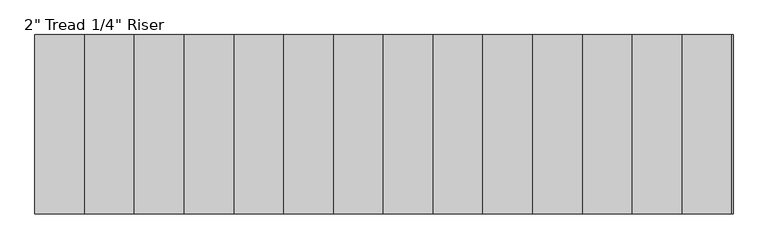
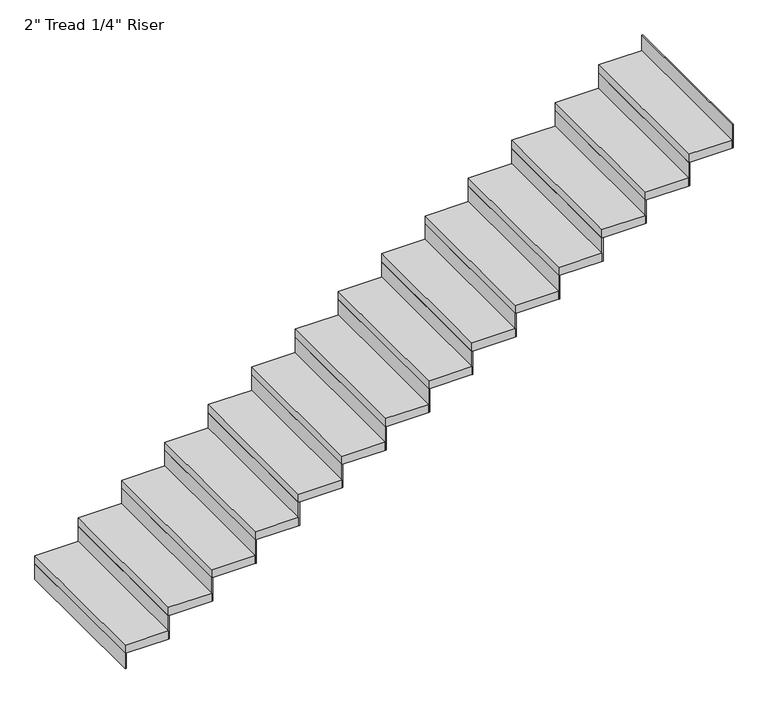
"""IFC4 building model written with IfcOpenShell, lengths in millimetres: stair flight geometry."""

import ifcopenshell
import ifcopenshell.guid

model = None  # the IFC model being written
_history = None  # IfcOwnerHistory: only IFC2X3 demands one
_inside = {}  # id of a spatial element -> (the spatial element, [elements in it])
_under = {}  # id of a project, library or spatial element -> (it, [spatial elements below it])
_declared = {}  # id of a project -> (the project, [libraries it declares])
_typed = {}  # id of a type object -> (the type object, [elements of that type])
_made_of = {}  # id of a material, layer set ... -> (it, [elements and type objects made of it])


def new_model(schema):
    """Start an empty IFC model of exactly this schema.

    Asked for "IFC4X3", IfcOpenShell would pick the latest addendum, in which some entities
    have other attributes; the version numbers below select the first issue.
    IFC2X3 requires an IfcOwnerHistory on every rooted entity: one is made here for all.
    """
    global model, _history
    if schema == "IFC4X3":
        model = ifcopenshell.file(schema_version=(4, 3, 0, 0))
    else:
        model = ifcopenshell.file(schema=schema)
    _inside.clear()
    _under.clear()
    _declared.clear()
    _typed.clear()
    _made_of.clear()
    _history = None
    if model.schema == "IFC2X3":
        org = make("IfcOrganization", Name="unknown")
        user = make(
            "IfcPersonAndOrganization",
            ThePerson=make("IfcPerson", FamilyName="unknown"),
            TheOrganization=org,
        )
        app = make(
            "IfcApplication",
            ApplicationDeveloper=org,
            Version="unknown",
            ApplicationFullName="unknown",
            ApplicationIdentifier="unknown",
        )
        _history = make(
            "IfcOwnerHistory",
            OwningUser=user,
            OwningApplication=app,
            ChangeAction="ADDED",
            CreationDate=0,
        )
    return model


def make(cls, **values):
    """One entity of the class cls with the attributes given. An attribute that is None is left unset."""
    return model.create_entity(
        cls, **{name: value for name, value in values.items() if value is not None}
    )


def rooted(cls, **values):
    """An entity with a GlobalId (a new one), such as an element, a storey or a relation."""
    return make(cls, GlobalId=ifcopenshell.guid.new(), OwnerHistory=_history, **values)


def si_unit(unit_type, name, prefix=None):
    """IfcSIUnit, for example si_unit("LENGTHUNIT", "METRE", prefix="MILLI")."""
    return make("IfcSIUnit", UnitType=unit_type, Prefix=prefix, Name=name)


def assignment(units):
    """IfcUnitAssignment: the units of a project."""
    return None if units is None else make("IfcUnitAssignment", Units=units)


def point(xyz):
    """IfcCartesianPoint."""
    return None if xyz is None else make("IfcCartesianPoint", Coordinates=xyz)


def direction(xyz):
    """IfcDirection."""
    return None if xyz is None else make("IfcDirection", DirectionRatios=xyz)


def frame(location, z_axis=None, x_axis=None):
    """IfcAxis2Placement3D, a coordinate frame: its origin and axes. An axis left out is left unset."""
    return make(
        "IfcAxis2Placement3D",
        Location=point(location),
        Axis=direction(z_axis),
        RefDirection=direction(x_axis),
    )


def origin():
    """The frame at (0, 0, 0) with its axes left unset."""
    return frame((0.0, 0.0, 0.0))


def origin_with_axes():
    """The frame at (0, 0, 0) with the z axis (0, 0, 1) and the x axis (1, 0, 0) written out."""
    return frame((0.0, 0.0, 0.0), z_axis=(0.0, 0.0, 1.0), x_axis=(1.0, 0.0, 0.0))


def place(relative_to, where):
    """IfcLocalPlacement: puts the frame where relative to a parent placement (None: the world)."""
    return make(
        "IfcLocalPlacement", PlacementRelTo=relative_to, RelativePlacement=where
    )


def context(
    kind, dimensions, precision=None, world=None, true_north=None, identifier=None
):
    """IfcGeometricRepresentationContext, for example the 3D "Model" context."""
    return make(
        "IfcGeometricRepresentationContext",
        ContextIdentifier=identifier,
        ContextType=kind,
        CoordinateSpaceDimension=dimensions,
        Precision=precision,
        WorldCoordinateSystem=world,
        TrueNorth=true_north,
    )


def project(units=None, contexts=None):
    """IfcProject with its units and contexts."""
    return rooted(
        "IfcProject",
        Name="project",
        RepresentationContexts=contexts,
        UnitsInContext=assignment(units),
    )


def spatial(cls, under=None, at=None, **own):
    """A site, building, storey or space (cls), placed at a placement, below another one or the project."""
    s = rooted(cls, ObjectPlacement=at, **own)
    if under is not None:
        _under.setdefault(under.id(), (under, []))[1].append(s)
    return s


def polyline(points):
    """IfcPolyline through the points."""
    return make("IfcPolyline", Points=[point(p) for p in points])


def outline(outer, holes=None, kind="AREA"):
    """IfcArbitraryClosedProfileDef: a profile drawn as a closed curve; with holes, ...WithVoids."""
    if holes is None:
        return make("IfcArbitraryClosedProfileDef", ProfileType=kind, OuterCurve=outer)
    return make(
        "IfcArbitraryProfileDefWithVoids",
        ProfileType=kind,
        OuterCurve=outer,
        InnerCurves=holes,
    )


def extrude(swept, where, along, depth):
    """IfcExtrudedAreaSolid: the profile swept, set in the frame where, extruded along a direction by depth."""
    return make(
        "IfcExtrudedAreaSolid",
        SweptArea=swept,
        Position=where,
        ExtrudedDirection=direction(along),
        Depth=depth,
    )


def shape(context_of_items, identifier, shape_type, items):
    """IfcShapeRepresentation: the items that make up one representation, for example the "Body"."""
    return make(
        "IfcShapeRepresentation",
        ContextOfItems=context_of_items,
        RepresentationIdentifier=identifier,
        RepresentationType=shape_type,
        Items=items,
    )


def source(mapping_origin, context_of_items, identifier, shape_type, items):
    """IfcRepresentationMap: a shape defined once, which mapped items show again and again."""
    return make(
        "IfcRepresentationMap",
        MappingOrigin=mapping_origin,
        MappedRepresentation=shape(context_of_items, identifier, shape_type, items),
    )


def transform(
    local_origin,
    x_axis=None,
    y_axis=None,
    z_axis=None,
    scale=None,
    scale2=None,
    scale3=None,
    uniform=True,
):
    """IfcCartesianTransformationOperator3D, or its non-uniform kind. x_axis, y_axis, z_axis: its Axis1, 2, 3."""
    if uniform:
        return make(
            "IfcCartesianTransformationOperator3D",
            Axis1=direction(x_axis),
            Axis2=direction(y_axis),
            LocalOrigin=point(local_origin),
            Scale=scale,
            Axis3=direction(z_axis),
        )
    return make(
        "IfcCartesianTransformationOperator3DnonUniform",
        Axis1=direction(x_axis),
        Axis2=direction(y_axis),
        LocalOrigin=point(local_origin),
        Scale=scale,
        Axis3=direction(z_axis),
        Scale2=scale2,
        Scale3=scale3,
    )


def mapped(mapping_source, mapping_target):
    """IfcMappedItem: shows the shape of a source again, moved by a transform."""
    return make(
        "IfcMappedItem", MappingSource=mapping_source, MappingTarget=mapping_target
    )


def made_of(thing, what):
    """Note that an element or type object is made of a material, layer set ...; save() writes the relation."""
    if what is not None:
        _made_of.setdefault(what.id(), (what, []))[1].append(thing)
    return thing


def element(
    cls,
    number,
    at=None,
    inside=None,
    cuts=None,
    type_object=None,
    material=None,
    context=None,
    identifier="Body",
    shape_type=None,
    held_by="IfcProductDefinitionShape",
    body=None,
    shapes=None,
    **own,
):
    """One element of the class cls, such as IfcWall. Its Tag is "e" and its number.

    at: its placement. inside: the storey or other place that contains it. cuts: it is an
    opening in that element (IfcRelVoidsElement). A single representation is given by context,
    identifier, shape_type and body (its items); several are given by shapes. held_by: the class
    of the entity that holds the representations. save() writes the other relations.
    """
    e = rooted(cls, Tag="e%d" % number, ObjectPlacement=at, **own)
    if body is not None:
        shapes = [shape(context, identifier, shape_type, body)]
    if shapes is not None:
        e.Representation = make(held_by, Representations=shapes)
    if inside is not None:
        _inside.setdefault(inside.id(), (inside, []))[1].append(e)
    if cuts is not None:
        rooted(
            "IfcRelVoidsElement", RelatingBuildingElement=cuts, RelatedOpeningElement=e
        )
    if type_object is not None:
        _typed.setdefault(type_object.id(), (type_object, []))[1].append(e)
    return made_of(e, material)


def aggregate(whole, parts):
    """IfcRelAggregates: a whole, such as a stair, and the parts it consists of."""
    return rooted("IfcRelAggregates", RelatingObject=whole, RelatedObjects=parts)


def save(model, path):
    """Write the relations noted so far, then the file.

    IfcRelAggregates (storeys below a building ...), IfcRelContainedInSpatialStructure (elements
    in a storey), IfcRelDefinesByType, IfcRelAssociatesMaterial and IfcRelDeclares: one each for
    every whole, place, type object, material and project.
    """
    for whole, parts in _under.values():
        aggregate(whole, parts)
    for where, things in _inside.values():
        rooted(
            "IfcRelContainedInSpatialStructure",
            RelatedElements=things,
            RelatingStructure=where,
        )
    for kind, things in _typed.values():
        rooted("IfcRelDefinesByType", RelatedObjects=things, RelatingType=kind)
    for what, things in _made_of.values():
        rooted("IfcRelAssociatesMaterial", RelatedObjects=things, RelatingMaterial=what)
    for by, libraries in _declared.values():
        rooted("IfcRelDeclares", RelatingContext=by, RelatedDefinitions=libraries)
    model.write(path)


def stair_flight_fc5f5a85(model_context):
    return source(origin(), model_context, "Body", "SweptSolid", [
        extrude(outline(polyline([(159432.6120703, -18948.6120358), (159426.2620703, -18948.6120358), (159426.2620703, -18034.2120358), (159432.6120703, -18034.2120358), (159432.6120703, -18948.6120358)])), origin_with_axes(), (0.0, 0.0, 1.0), 94.3428571),
        extrude(outline(polyline([(159680.2620703, -18034.2120358), (159680.2620703, -18948.6120358), (159426.2620703, -18948.6120358), (159426.2620703, -18034.2120358), (159680.2620703, -18034.2120358)])), frame((0.0, 0.0, 94.3428571), z_axis=(0.0, 0.0, 1.0), x_axis=(1.0, 0.0, 0.0)), (0.0, 0.0, 1.0), 50.8),
        extrude(outline(polyline([(159686.6120703, -18948.6120358), (159680.2620703, -18948.6120358), (159680.2620703, -18034.2120358), (159686.6120703, -18034.2120358), (159686.6120703, -18948.6120358)])), frame((0.0, 0.0, 94.3428571), z_axis=(0.0, 0.0, 1.0), x_axis=(1.0, 0.0, 0.0)), (0.0, 0.0, 1.0), 145.1428571),
        extrude(outline(polyline([(159934.2620703, -18034.2120358), (159934.2620703, -18948.6120358), (159680.2620703, -18948.6120358), (159680.2620703, -18034.2120358), (159934.2620703, -18034.2120358)])), frame((0.0, 0.0, 239.4857143), z_axis=(0.0, 0.0, 1.0), x_axis=(1.0, 0.0, 0.0)), (0.0, 0.0, 1.0), 50.8),
        extrude(outline(polyline([(159940.6120703, -18948.6120358), (159934.2620703, -18948.6120358), (159934.2620703, -18034.2120358), (159940.6120703, -18034.2120358), (159940.6120703, -18948.6120358)])), frame((0.0, 0.0, 239.4857143), z_axis=(0.0, 0.0, 1.0), x_axis=(1.0, 0.0, 0.0)), (0.0, 0.0, 1.0), 145.1428571),
        extrude(outline(polyline([(160188.2620703, -18034.2120358), (160188.2620703, -18948.6120358), (159934.2620703, -18948.6120358), (159934.2620703, -18034.2120358), (160188.2620703, -18034.2120358)])), frame((0.0, 0.0, 384.6285714), z_axis=(0.0, 0.0, 1.0), x_axis=(1.0, 0.0, 0.0)), (0.0, 0.0, 1.0), 50.8),
        extrude(outline(polyline([(160194.6120703, -18948.6120358), (160188.2620703, -18948.6120358), (160188.2620703, -18034.2120358), (160194.6120703, -18034.2120358), (160194.6120703, -18948.6120358)])), frame((0.0, 0.0, 384.6285714), z_axis=(0.0, 0.0, 1.0), x_axis=(1.0, 0.0, 0.0)), (0.0, 0.0, 1.0), 145.1428571),
        extrude(outline(polyline([(160442.2620703, -18034.2120358), (160442.2620703, -18948.6120358), (160188.2620703, -18948.6120358), (160188.2620703, -18034.2120358), (160442.2620703, -18034.2120358)])), frame((0.0, 0.0, 529.7714286), z_axis=(0.0, 0.0, 1.0), x_axis=(1.0, 0.0, 0.0)), (0.0, 0.0, 1.0), 50.8),
        extrude(outline(polyline([(160448.6120703, -18948.6120358), (160442.2620703, -18948.6120358), (160442.2620703, -18034.2120358), (160448.6120703, -18034.2120358), (160448.6120703, -18948.6120358)])), frame((0.0, 0.0, 529.7714286), z_axis=(0.0, 0.0, 1.0), x_axis=(1.0, 0.0, 0.0)), (0.0, 0.0, 1.0), 145.1428571),
        extrude(outline(polyline([(160696.2620703, -18034.2120358), (160696.2620703, -18948.6120358), (160442.2620703, -18948.6120358), (160442.2620703, -18034.2120358), (160696.2620703, -18034.2120358)])), frame((0.0, 0.0, 674.9142857), z_axis=(0.0, 0.0, 1.0), x_axis=(1.0, 0.0, 0.0)), (0.0, 0.0, 1.0), 50.8),
        extrude(outline(polyline([(160702.6120703, -18948.6120358), (160696.2620703, -18948.6120358), (160696.2620703, -18034.2120358), (160702.6120703, -18034.2120358), (160702.6120703, -18948.6120358)])), frame((0.0, 0.0, 674.9142857), z_axis=(0.0, 0.0, 1.0), x_axis=(1.0, 0.0, 0.0)), (0.0, 0.0, 1.0), 145.1428571),
        extrude(outline(polyline([(160950.2620703, -18034.2120358), (160950.2620703, -18948.6120358), (160696.2620703, -18948.6120358), (160696.2620703, -18034.2120358), (160950.2620703, -18034.2120358)])), frame((0.0, 0.0, 820.0571429), z_axis=(0.0, 0.0, 1.0), x_axis=(1.0, 0.0, 0.0)), (0.0, 0.0, 1.0), 50.8),
        extrude(outline(polyline([(160956.6120703, -18948.6120358), (160950.2620703, -18948.6120358), (160950.2620703, -18034.2120358), (160956.6120703, -18034.2120358), (160956.6120703, -18948.6120358)])), frame((0.0, 0.0, 820.0571429), z_axis=(0.0, 0.0, 1.0), x_axis=(1.0, 0.0, 0.0)), (0.0, 0.0, 1.0), 145.1428571),
        extrude(outline(polyline([(161204.2620703, -18034.2120358), (161204.2620703, -18948.6120358), (160950.2620703, -18948.6120358), (160950.2620703, -18034.2120358), (161204.2620703, -18034.2120358)])), frame((0.0, 0.0, 965.2), z_axis=(0.0, 0.0, 1.0), x_axis=(1.0, 0.0, 0.0)), (0.0, 0.0, 1.0), 50.8),
        extrude(outline(polyline([(161210.6120703, -18948.6120358), (161204.2620703, -18948.6120358), (161204.2620703, -18034.2120358), (161210.6120703, -18034.2120358), (161210.6120703, -18948.6120358)])), frame((0.0, 0.0, 965.2), z_axis=(0.0, 0.0, 1.0), x_axis=(1.0, 0.0, 0.0)), (0.0, 0.0, 1.0), 145.1428571),
        extrude(outline(polyline([(161458.2620703, -18034.2120358), (161458.2620703, -18948.6120358), (161204.2620703, -18948.6120358), (161204.2620703, -18034.2120358), (161458.2620703, -18034.2120358)])), frame((0.0, 0.0, 1110.3428571), z_axis=(0.0, 0.0, 1.0), x_axis=(1.0, 0.0, 0.0)), (0.0, 0.0, 1.0), 50.8),
        extrude(outline(polyline([(161464.6120703, -18948.6120358), (161458.2620703, -18948.6120358), (161458.2620703, -18034.2120358), (161464.6120703, -18034.2120358), (161464.6120703, -18948.6120358)])), frame((0.0, 0.0, 1110.3428571), z_axis=(0.0, 0.0, 1.0), x_axis=(1.0, 0.0, 0.0)), (0.0, 0.0, 1.0), 145.1428571),
        extrude(outline(polyline([(161712.2620703, -18034.2120358), (161712.2620703, -18948.6120358), (161458.2620703, -18948.6120358), (161458.2620703, -18034.2120358), (161712.2620703, -18034.2120358)])), frame((0.0, 0.0, 1255.4857143), z_axis=(0.0, 0.0, 1.0), x_axis=(1.0, 0.0, 0.0)), (0.0, 0.0, 1.0), 50.8),
        extrude(outline(polyline([(161718.6120703, -18948.6120358), (161712.2620703, -18948.6120358), (161712.2620703, -18034.2120358), (161718.6120703, -18034.2120358), (161718.6120703, -18948.6120358)])), frame((0.0, 0.0, 1255.4857143), z_axis=(0.0, 0.0, 1.0), x_axis=(1.0, 0.0, 0.0)), (0.0, 0.0, 1.0), 145.1428571),
        extrude(outline(polyline([(161966.2620703, -18034.2120358), (161966.2620703, -18948.6120358), (161712.2620703, -18948.6120358), (161712.2620703, -18034.2120358), (161966.2620703, -18034.2120358)])), frame((0.0, 0.0, 1400.6285714), z_axis=(0.0, 0.0, 1.0), x_axis=(1.0, 0.0, 0.0)), (0.0, 0.0, 1.0), 50.8),
        extrude(outline(polyline([(161972.6120703, -18948.6120358), (161966.2620703, -18948.6120358), (161966.2620703, -18034.2120358), (161972.6120703, -18034.2120358), (161972.6120703, -18948.6120358)])), frame((0.0, 0.0, 1400.6285714), z_axis=(0.0, 0.0, 1.0), x_axis=(1.0, 0.0, 0.0)), (0.0, 0.0, 1.0), 145.1428571),
        extrude(outline(polyline([(162220.2620703, -18034.2120358), (162220.2620703, -18948.6120358), (161966.2620703, -18948.6120358), (161966.2620703, -18034.2120358), (162220.2620703, -18034.2120358)])), frame((0.0, 0.0, 1545.7714286), z_axis=(0.0, 0.0, 1.0), x_axis=(1.0, 0.0, 0.0)), (0.0, 0.0, 1.0), 50.8),
        extrude(outline(polyline([(162226.6120703, -18948.6120358), (162220.2620703, -18948.6120358), (162220.2620703, -18034.2120358), (162226.6120703, -18034.2120358), (162226.6120703, -18948.6120358)])), frame((0.0, 0.0, 1545.7714286), z_axis=(0.0, 0.0, 1.0), x_axis=(1.0, 0.0, 0.0)), (0.0, 0.0, 1.0), 145.1428571),
        extrude(outline(polyline([(162474.2620703, -18034.2120358), (162474.2620703, -18948.6120358), (162220.2620703, -18948.6120358), (162220.2620703, -18034.2120358), (162474.2620703, -18034.2120358)])), frame((0.0, 0.0, 1690.9142857), z_axis=(0.0, 0.0, 1.0), x_axis=(1.0, 0.0, 0.0)), (0.0, 0.0, 1.0), 50.8),
        extrude(outline(polyline([(162480.6120703, -18948.6120358), (162474.2620703, -18948.6120358), (162474.2620703, -18034.2120358), (162480.6120703, -18034.2120358), (162480.6120703, -18948.6120358)])), frame((0.0, 0.0, 1690.9142857), z_axis=(0.0, 0.0, 1.0), x_axis=(1.0, 0.0, 0.0)), (0.0, 0.0, 1.0), 145.1428571),
        extrude(outline(polyline([(162728.2620703, -18034.2120358), (162728.2620703, -18948.6120358), (162474.2620703, -18948.6120358), (162474.2620703, -18034.2120358), (162728.2620703, -18034.2120358)])), frame((0.0, 0.0, 1836.0571429), z_axis=(0.0, 0.0, 1.0), x_axis=(1.0, 0.0, 0.0)), (0.0, 0.0, 1.0), 50.8),
        extrude(outline(polyline([(162734.6120703, -18948.6120358), (162728.2620703, -18948.6120358), (162728.2620703, -18034.2120358), (162734.6120703, -18034.2120358), (162734.6120703, -18948.6120358)])), frame((0.0, 0.0, 1836.0571429), z_axis=(0.0, 0.0, 1.0), x_axis=(1.0, 0.0, 0.0)), (0.0, 0.0, 1.0), 145.1428571),
        extrude(outline(polyline([(162988.6120703, -18948.6120358), (162982.2620703, -18948.6120358), (162982.2620703, -18034.2120358), (162988.6120703, -18034.2120358), (162988.6120703, -18948.6120358)])), frame((0.0, 0.0, 1981.2), z_axis=(0.0, 0.0, 1.0), x_axis=(1.0, 0.0, 0.0)), (0.0, 0.0, 1.0), 145.1428571),
        extrude(outline(polyline([(162982.2620703, -18034.2120358), (162982.2620703, -18948.6120358), (162728.2620703, -18948.6120358), (162728.2620703, -18034.2120358), (162982.2620703, -18034.2120358)])), frame((0.0, 0.0, 1981.2), z_axis=(0.0, 0.0, 1.0), x_axis=(1.0, 0.0, 0.0)), (0.0, 0.0, 1.0), 50.8),
    ])


if __name__ == "__main__":
    model = new_model("IFC4")
    model_context = context("Model", 3, world=origin())
    ifc_project = project(units=[si_unit("LENGTHUNIT", "METRE", prefix="MILLI")], contexts=[model_context])
    site = spatial("IfcSite", under=ifc_project)
    building = spatial("IfcBuilding", under=site)
    placement = place(None, origin())
    stair_flight_shape = stair_flight_fc5f5a85(model_context)
    element("IfcStairFlight", 1, ObjectType="2\" Tread 1/4\" Riser", at=placement, inside=building, context=model_context, shape_type="MappedRepresentation", body=[
        mapped(stair_flight_shape, transform((0.0, 0.0, 0.0), x_axis=(1.0, 0.0, 0.0), y_axis=(0.0, 1.0, 0.0), z_axis=(0.0, 0.0, 1.0))),
    ])
    save(model, "model.ifc")
